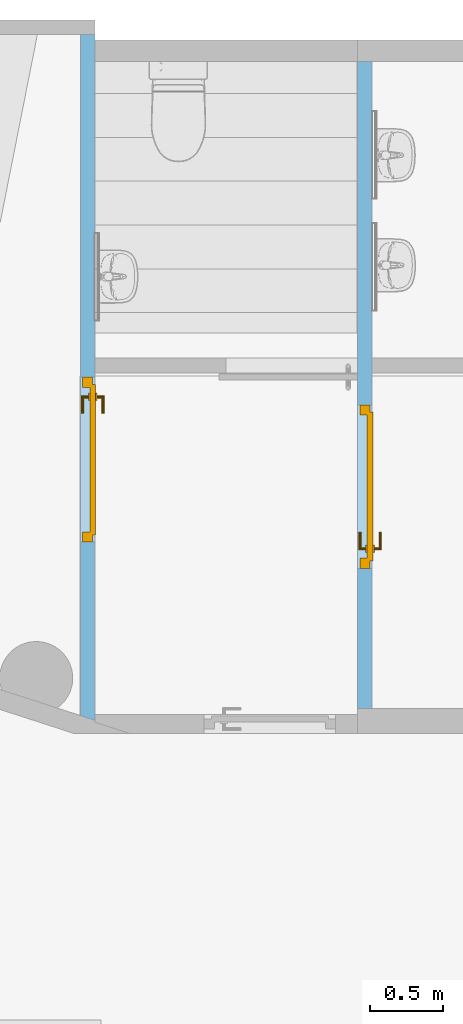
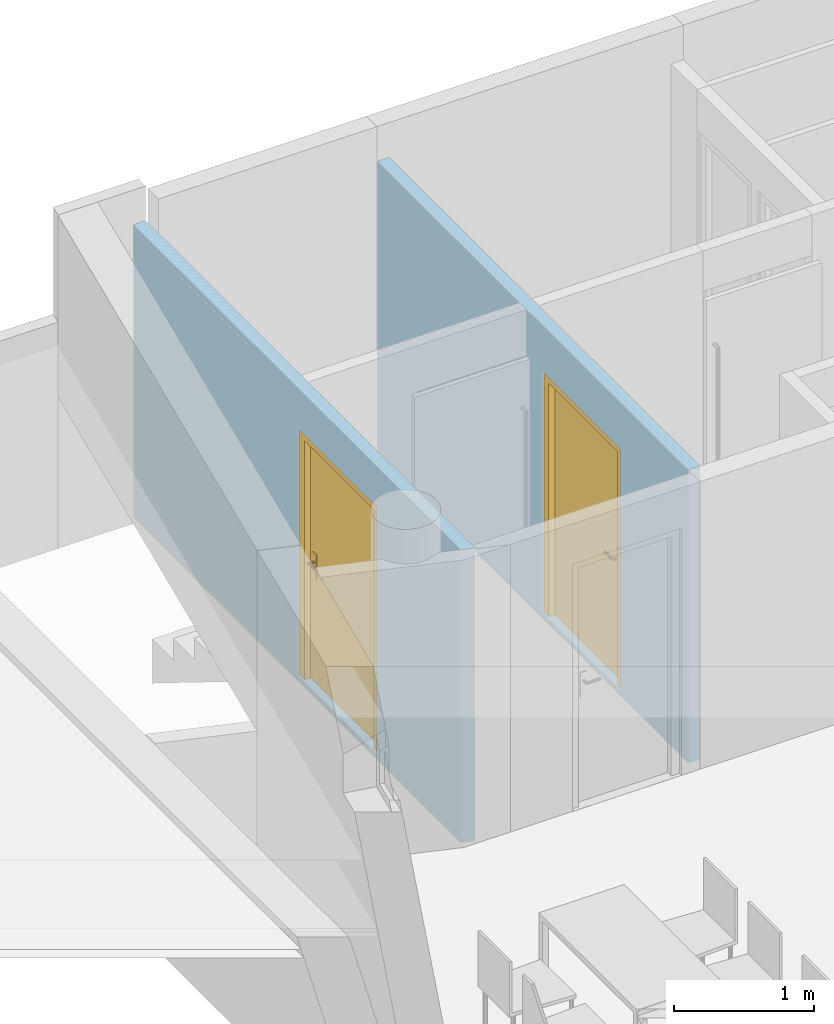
"""IFC4 building model written with IfcOpenShell, lengths in metres."""

from ifc_helpers import new_model, entity, si_unit, converted_unit, derived_unit, frame, frame_2d, origin, origin_with_axes, place, context, subcontext, project, spatial, polyline, rectangle, outline, extrude, faceted_brep, source, transform, mapped, material, layer, layer_set, layer_usage, element, fill, save


model = new_model("IFC4")

# Units and contexts
model_context = context("Model", 3, precision=1e-05, world=origin())
body_context = subcontext(model_context, "Body", "Model", "MODEL_VIEW")
ifc_project = project(units=[si_unit("LENGTHUNIT", "METRE"), si_unit("AREAUNIT", "SQUARE_METRE"), si_unit("VOLUMEUNIT", "CUBIC_METRE"), si_unit("MASSUNIT", "GRAM", prefix="KILO"), converted_unit("PLANEANGLEUNIT", "DEGREE", entity("IfcPlaneAngleMeasure", 0.0174532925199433), si_unit("PLANEANGLEUNIT", "RADIAN"), dimensions=[0, 0, 0, 0, 0, 0, 0]), derived_unit("THERMALTRANSMITTANCEUNIT", [(si_unit("POWERUNIT", "WATT"), 1), (si_unit("THERMODYNAMICTEMPERATUREUNIT", "KELVIN"), -1), (si_unit("LENGTHUNIT", "METRE"), -2)]), derived_unit("VOLUMETRICFLOWRATEUNIT", [(si_unit("LENGTHUNIT", "METRE"), 3), (converted_unit("TIMEUNIT", "hour", entity("IfcTimeMeasure", 3600.0), si_unit("TIMEUNIT", "SECOND"), dimensions=[0, 0, 1, 0, 0, 0, 0]), -1), (si_unit("LENGTHUNIT", "METRE"), -1)])], contexts=[model_context])

# Building, storeys
building_placement = place(None, origin())
building = spatial("IfcBuilding", under=ifc_project, at=building_placement, Name="HABITATGE PLURIFAMILIAR", CompositionType="ELEMENT")
storey_1_placement = place(building_placement, frame((0.0, 0.0, 3.35)))
storey_1 = spatial("IfcBuildingStorey", under=building, at=storey_1_placement, Name="PLANTA  ALTELL", CompositionType="ELEMENT", Elevation=3.35)
storey_2_placement = place(storey_1_placement, origin())
storey_2 = spatial("IfcBuildingStorey", under=storey_1, at=storey_2_placement, Name="NOU", CompositionType="PARTIAL")

# Wall, opening, door
ifc_material_1 = material()
ifc_layer_1 = layer(ifc_material_1, 0.1)
ifc_layer_set_1 = layer_set([ifc_layer_1])
ifc_layer_usage_1 = layer_usage(ifc_layer_set_1, "AXIS2", "POSITIVE", 0.0)
wall_1_placement = place(storey_2_placement, frame((403.357142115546, 23.6495914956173, -0.05), z_axis=(0.0, 0.0, 1.0), x_axis=(0.0, 1.0, 0.0)))
wall_1 = element("IfcWall", 1, at=wall_1_placement, inside=storey_2, material=ifc_layer_usage_1, Name="Evans PA", context=body_context, shape_type="SweptSolid", body=[
    extrude(rectangle(XDim=4.42865640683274, YDim=0.1, at=frame_2d((2.21432820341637, 0.05), x_axis=(1.0, 0.0))), origin_with_axes(), (0.0, 0.0, 1.0), 2.55),
])
opening_1_placement = place(wall_1_placement, frame((2.07999999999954, 0.1, 0.05), z_axis=(0.0, -1.0, 0.0), x_axis=(0.0, 0.0, 1.0)))
opening_1 = element("IfcOpeningElement", 2, at=opening_1_placement, cuts=wall_1, Name="Vano de puerta PA", ObjectType="Opening", context=body_context, shape_type="SweptSolid", body=[
    extrude(outline(polyline([(2.1, 1.12), (2.1, 0.0), (0.0, 0.0), (0.0, 1.12), (2.1, 1.12)])), origin_with_axes(), (0.0, 0.0, 1.0), 0.1),
])
shared_shape_1 = source(origin_with_axes(), body_context, "Body", "Brep", [
    faceted_brep([(1.12000000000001, 0.0699999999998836, 2.1), (1.05000000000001, 0.0699999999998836, 2.1), (1.05000000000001, 0.0699999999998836, 0.0), (1.12000000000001, 0.0699999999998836, 0.0), (1.12000000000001, 0.0, 0.0), (1.05000000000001, 0.0, 0.0), (1.05000000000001, 0.0, 2.1), (1.12000000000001, 0.0, 2.1)], [[[0, 1, 2, 3]], [[4, 5, 6, 7]], [[3, 4, 7, 0]], [[2, 5, 4, 3]], [[1, 6, 5, 2]], [[0, 7, 6, 1]]], orient=[[False], [False], [False], [False], [False], [False]]),
    faceted_brep([(0.0700000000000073, 0.0699999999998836, 2.1), (0.0, 0.0699999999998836, 2.1), (0.0, 0.0699999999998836, 0.0), (0.0700000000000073, 0.0699999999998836, 0.0), (0.0700000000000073, 0.0, 0.0), (0.0, 0.0, 0.0), (0.0, 0.0, 2.1), (0.0700000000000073, 0.0, 2.1)], [[[0, 1, 2, 3]], [[4, 5, 6, 7]], [[3, 4, 7, 0]], [[2, 5, 4, 3]], [[1, 6, 5, 2]], [[0, 7, 6, 1]]], orient=[[False], [False], [False], [False], [False], [False]]),
    faceted_brep([(1.05000000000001, 0.0699999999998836, 2.1), (0.0700000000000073, 0.0699999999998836, 2.1), (0.0700000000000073, 0.0699999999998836, 2.03), (1.05000000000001, 0.0699999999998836, 2.03), (1.05000000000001, 0.0, 2.03), (0.0700000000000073, 0.0, 2.03), (0.0700000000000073, 0.0, 2.1), (1.05000000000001, 0.0, 2.1)], [[[0, 1, 2, 3]], [[4, 5, 6, 7]], [[3, 4, 7, 0]], [[2, 5, 4, 3]], [[1, 6, 5, 2]], [[0, 7, 6, 1]]], orient=[[False], [False], [False], [False], [False], [False]]),
    faceted_brep([(1.07000000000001, 0.0899999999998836, 2.05), (0.0500000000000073, 0.0899999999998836, 2.05), (0.0500000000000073, 0.0899999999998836, 0.0), (1.07000000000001, 0.0899999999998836, 0.0), (1.07000000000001, 0.0499999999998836, 0.0), (0.0500000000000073, 0.0499999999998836, 0.0), (0.0500000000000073, 0.0499999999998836, 2.05), (1.07000000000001, 0.0499999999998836, 2.05)], [[[0, 1, 2, 3]], [[4, 5, 6, 7]], [[3, 4, 7, 0]], [[2, 5, 4, 3]], [[1, 6, 5, 2]], [[0, 7, 6, 1]]], orient=[[False], [False], [False], [False], [False], [False]]),
    faceted_brep([(1.01000000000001, 0.0499999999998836, 1.125), (0.960000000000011, 0.0499999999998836, 1.125), (0.960000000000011, 0.0499999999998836, 0.91), (1.01000000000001, 0.0499999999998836, 0.91), (1.01000000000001, 0.0399999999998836, 0.91), (0.960000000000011, 0.0399999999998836, 0.91), (0.960000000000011, 0.0399999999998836, 1.125), (1.01000000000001, 0.0399999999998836, 1.125)], [[[0, 1, 2, 3]], [[4, 5, 6, 7]], [[3, 4, 7, 0]], [[2, 5, 4, 3]], [[1, 6, 5, 2]], [[0, 7, 6, 1]]], orient=[[False], [False], [False], [False], [False], [False]]),
    faceted_brep([(0.985000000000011, 0.0399999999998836, 1.06), (0.980000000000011, 0.0399999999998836, 1.05866025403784), (0.976339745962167, 0.0399999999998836, 1.055), (0.975000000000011, 0.0399999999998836, 1.05), (0.976339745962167, 0.0399999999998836, 1.045), (0.980000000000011, 0.0399999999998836, 1.04133974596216), (0.985000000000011, 0.0399999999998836, 1.04), (0.990000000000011, 0.0399999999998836, 1.04133974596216), (0.993660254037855, 0.0399999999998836, 1.045), (0.995000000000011, 0.0399999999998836, 1.05), (0.993660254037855, 0.0399999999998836, 1.055), (0.990000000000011, 0.0399999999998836, 1.05866025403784), (0.990000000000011, -0.00500000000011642, 1.05866025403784), (0.985000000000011, 0.0, 1.06), (0.993660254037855, -0.00866025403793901, 1.055), (0.995000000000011, -0.0100000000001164, 1.05), (0.993660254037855, -0.00866025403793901, 1.045), (0.990000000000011, -0.00500000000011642, 1.04133974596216), (0.985000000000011, 0.0, 1.04), (0.980000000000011, 0.00499999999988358, 1.04133974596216), (0.976339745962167, 0.00866025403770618, 1.045), (0.975000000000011, 0.00999999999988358, 1.05), (0.976339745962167, 0.00866025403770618, 1.055), (0.980000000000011, 0.00499999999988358, 1.05866025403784), (0.870000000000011, 0.0, 1.06), (0.870000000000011, -0.00500000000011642, 1.05866025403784), (0.870000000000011, -0.00866025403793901, 1.055), (0.870000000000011, -0.0100000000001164, 1.05), (0.870000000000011, -0.00866025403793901, 1.045), (0.870000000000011, -0.00500000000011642, 1.04133974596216), (0.870000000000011, 0.0, 1.04), (0.870000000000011, 0.00499999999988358, 1.04133974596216), (0.870000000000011, 0.00866025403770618, 1.045), (0.870000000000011, 0.00999999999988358, 1.05), (0.870000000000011, 0.00866025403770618, 1.055), (0.870000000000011, 0.00499999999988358, 1.05866025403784)], [[[0, 1, 2, 3, 4, 5, 6, 7, 8, 9, 10, 11]], [[0, 11, 12, 13]], [[11, 10, 14, 12]], [[10, 9, 15, 14]], [[9, 8, 16, 15]], [[8, 7, 17, 16]], [[7, 6, 18, 17]], [[6, 5, 19, 18]], [[5, 4, 20, 19]], [[4, 3, 21, 20]], [[3, 2, 22, 21]], [[2, 1, 23, 22]], [[1, 0, 13, 23]], [[24, 25, 26, 27, 28, 29, 30, 31, 32, 33, 34, 35]], [[13, 12, 25, 24]], [[12, 14, 26, 25]], [[14, 15, 27, 26]], [[15, 16, 28, 27]], [[16, 17, 29, 28]], [[17, 18, 30, 29]], [[18, 19, 31, 30]], [[19, 20, 32, 31]], [[20, 21, 33, 32]], [[21, 22, 34, 33]], [[22, 23, 35, 34]], [[23, 13, 24, 35]]], orient=[[False], [False], [False], [False], [False], [False], [False], [False], [False], [False], [False], [False], [False], [False], [False], [False], [False], [False], [False], [False], [False], [False], [False], [False], [False], [False]]),
    faceted_brep([(1.01000000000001, 0.0899999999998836, 1.125), (1.01000000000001, 0.0899999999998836, 0.91), (0.960000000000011, 0.0899999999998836, 0.91), (0.960000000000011, 0.0899999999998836, 1.125), (1.01000000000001, 0.0999999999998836, 0.91), (1.01000000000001, 0.0999999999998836, 1.125), (0.960000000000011, 0.0999999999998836, 1.125), (0.960000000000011, 0.0999999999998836, 0.91)], [[[0, 1, 2, 3]], [[4, 5, 6, 7]], [[1, 0, 5, 4]], [[2, 1, 4, 7]], [[3, 2, 7, 6]], [[0, 3, 6, 5]]], orient=[[False], [False], [False], [False], [False], [False]]),
    faceted_brep([(0.985000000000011, 0.0999999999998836, 1.06), (0.990000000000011, 0.0999999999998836, 1.05866025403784), (0.993660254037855, 0.0999999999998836, 1.055), (0.995000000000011, 0.0999999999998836, 1.05), (0.993660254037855, 0.0999999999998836, 1.045), (0.990000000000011, 0.0999999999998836, 1.04133974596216), (0.985000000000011, 0.0999999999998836, 1.04), (0.980000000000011, 0.0999999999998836, 1.04133974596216), (0.976339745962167, 0.0999999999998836, 1.045), (0.975000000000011, 0.0999999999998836, 1.05), (0.976339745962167, 0.0999999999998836, 1.055), (0.980000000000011, 0.0999999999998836, 1.05866025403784), (0.985000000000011, 0.139999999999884, 1.06), (0.990000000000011, 0.144999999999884, 1.05866025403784), (0.993660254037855, 0.148660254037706, 1.055), (0.995000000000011, 0.149999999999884, 1.05), (0.993660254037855, 0.148660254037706, 1.045), (0.990000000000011, 0.144999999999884, 1.04133974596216), (0.985000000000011, 0.139999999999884, 1.04), (0.980000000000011, 0.134999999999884, 1.04133974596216), (0.976339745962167, 0.131339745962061, 1.045), (0.975000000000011, 0.129999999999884, 1.05), (0.976339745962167, 0.131339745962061, 1.055), (0.980000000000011, 0.134999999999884, 1.05866025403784), (0.870000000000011, 0.139999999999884, 1.06), (0.870000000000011, 0.134999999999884, 1.05866025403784), (0.870000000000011, 0.131339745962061, 1.055), (0.870000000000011, 0.129999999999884, 1.05), (0.870000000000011, 0.131339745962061, 1.045), (0.870000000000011, 0.134999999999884, 1.04133974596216), (0.870000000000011, 0.139999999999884, 1.04), (0.870000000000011, 0.144999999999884, 1.04133974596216), (0.870000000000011, 0.148660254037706, 1.045), (0.870000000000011, 0.149999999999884, 1.05), (0.870000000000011, 0.148660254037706, 1.055), (0.870000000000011, 0.144999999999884, 1.05866025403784)], [[[0, 1, 2, 3, 4, 5, 6, 7, 8, 9, 10, 11]], [[0, 12, 13, 1]], [[1, 13, 14, 2]], [[2, 14, 15, 3]], [[3, 15, 16, 4]], [[4, 16, 17, 5]], [[5, 17, 18, 6]], [[6, 18, 19, 7]], [[7, 19, 20, 8]], [[8, 20, 21, 9]], [[9, 21, 22, 10]], [[10, 22, 23, 11]], [[11, 23, 12, 0]], [[24, 25, 26, 27, 28, 29, 30, 31, 32, 33, 34, 35]], [[12, 24, 35, 13]], [[13, 35, 34, 14]], [[14, 34, 33, 15]], [[15, 33, 32, 16]], [[16, 32, 31, 17]], [[17, 31, 30, 18]], [[18, 30, 29, 19]], [[19, 29, 28, 20]], [[20, 28, 27, 21]], [[21, 27, 26, 22]], [[22, 26, 25, 23]], [[23, 25, 24, 12]]], orient=[[False], [False], [False], [False], [False], [False], [False], [False], [False], [False], [False], [False], [False], [False], [False], [False], [False], [False], [False], [False], [False], [False], [False], [False], [False], [False]]),
])
door_1_placement = place(opening_1_placement, frame((0.0, 0.0, 0.015), z_axis=(1.0, 0.0, 0.0), x_axis=(0.0, 1.0, 0.0)))
door_1 = element("IfcDoor", 3, at=door_1_placement, inside=storey_2, Name="Porta PA", OperationType="USERDEFINED", OverallHeight=2.1, OverallWidth=1.12, PredefinedType="DOOR", context=body_context, shape_type="MappedRepresentation", body=[
    mapped(shared_shape_1, transform((0.0, 0.0, 0.0), x_axis=(1.0, 0.0, 0.0), y_axis=(0.0, 1.0, 0.0), z_axis=(0.0, 0.0, 1.0), scale=1.0)),
])
fill(opening_1, door_1)

ifc_material_2 = material()
ifc_layer_2 = layer(ifc_material_2, 0.1)
ifc_layer_set_2 = layer_set([ifc_layer_2])
ifc_layer_usage_2 = layer_usage(ifc_layer_set_2, "AXIS2", "POSITIVE", 0.0)
wall_2_placement = place(storey_2_placement, frame((401.458743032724, 23.5701517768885, -0.05), z_axis=(0.0, 0.0, 1.0), x_axis=(0.0, 1.0, 0.0)))
wall_2 = element("IfcWall", 4, at=wall_2_placement, inside=storey_2, material=ifc_layer_usage_2, Name="Evans PA", context=body_context, shape_type="SweptSolid", body=[
    extrude(outline(polyline([(0.0, -0.1), (4.69370477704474, -0.1), (4.69370477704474, 0.0), (0.0325220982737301, 0.0), (0.0, -0.1)])), frame((0.0, 0.1, 0.0), z_axis=(0.0, 0.0, 1.0), x_axis=(1.0, 0.0, 0.0)), (0.0, 0.0, 1.0), 2.55),
])
opening_2_placement = place(wall_2_placement, frame((2.34930937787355, 0.1, 0.05), z_axis=(0.0, -1.0, 0.0), x_axis=(0.0, 0.0, 1.0)))
opening_2 = element("IfcOpeningElement", 5, at=opening_2_placement, cuts=wall_2, Name="Vano de puerta PA", ObjectType="Opening", context=body_context, shape_type="SweptSolid", body=[
    extrude(outline(polyline([(2.15, 1.12998869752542), (2.15, 0.0), (0.0, 0.0), (0.0, 1.12998869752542), (2.15, 1.12998869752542)])), origin_with_axes(), (0.0, 0.0, 1.0), 0.1),
])
shared_shape_2 = source(origin_with_axes(), body_context, "Body", "Brep", [
    faceted_brep([(0.0, 0.0699999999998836, 2.15), (0.0, 0.0699999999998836, 0.0), (0.0700000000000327, 0.0699999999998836, 0.0), (0.0700000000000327, 0.0699999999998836, 2.15), (0.0, 0.0, 0.0), (0.0, 0.0, 2.15), (0.0700000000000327, 0.0, 2.15), (0.0700000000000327, 0.0, 0.0)], [[[0, 1, 2, 3]], [[4, 5, 6, 7]], [[1, 0, 5, 4]], [[2, 1, 4, 7]], [[3, 2, 7, 6]], [[0, 3, 6, 5]]], orient=[[False], [False], [False], [False], [False], [False]]),
    faceted_brep([(1.0599886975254, 0.0699999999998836, 2.15), (1.0599886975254, 0.0699999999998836, 0.0), (1.12998869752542, 0.0699999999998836, 0.0), (1.12998869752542, 0.0699999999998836, 2.15), (1.0599886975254, 0.0, 0.0), (1.0599886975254, 0.0, 2.15), (1.12998869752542, 0.0, 2.15), (1.12998869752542, 0.0, 0.0)], [[[0, 1, 2, 3]], [[4, 5, 6, 7]], [[1, 0, 5, 4]], [[2, 1, 4, 7]], [[3, 2, 7, 6]], [[0, 3, 6, 5]]], orient=[[False], [False], [False], [False], [False], [False]]),
    faceted_brep([(0.0700000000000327, 0.0699999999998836, 2.15), (0.0700000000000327, 0.0699999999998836, 2.08), (1.0599886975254, 0.0699999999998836, 2.08), (1.0599886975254, 0.0699999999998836, 2.15), (0.0700000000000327, 0.0, 2.08), (0.0700000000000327, 0.0, 2.15), (1.0599886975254, 0.0, 2.15), (1.0599886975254, 0.0, 2.08)], [[[0, 1, 2, 3]], [[4, 5, 6, 7]], [[1, 0, 5, 4]], [[2, 1, 4, 7]], [[3, 2, 7, 6]], [[0, 3, 6, 5]]], orient=[[False], [False], [False], [False], [False], [False]]),
    faceted_brep([(0.0500000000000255, 0.0899999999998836, 2.1), (0.0500000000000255, 0.0899999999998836, 0.0), (1.0799886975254, 0.0899999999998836, 0.0), (1.0799886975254, 0.0899999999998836, 2.1), (0.0500000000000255, 0.0499999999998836, 0.0), (0.0500000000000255, 0.0499999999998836, 2.1), (1.0799886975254, 0.0499999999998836, 2.1), (1.0799886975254, 0.0499999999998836, 0.0)], [[[0, 1, 2, 3]], [[4, 5, 6, 7]], [[1, 0, 5, 4]], [[2, 1, 4, 7]], [[3, 2, 7, 6]], [[0, 3, 6, 5]]], orient=[[False], [False], [False], [False], [False], [False]]),
    faceted_brep([(0.110000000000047, 0.0499999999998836, 1.125), (0.110000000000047, 0.0499999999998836, 0.91), (0.160000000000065, 0.0499999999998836, 0.91), (0.160000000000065, 0.0499999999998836, 1.125), (0.110000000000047, 0.0399999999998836, 0.91), (0.110000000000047, 0.0399999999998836, 1.125), (0.160000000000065, 0.0399999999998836, 1.125), (0.160000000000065, 0.0399999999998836, 0.91)], [[[0, 1, 2, 3]], [[4, 5, 6, 7]], [[1, 0, 5, 4]], [[2, 1, 4, 7]], [[3, 2, 7, 6]], [[0, 3, 6, 5]]], orient=[[False], [False], [False], [False], [False], [False]]),
    faceted_brep([(0.135000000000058, 0.0399999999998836, 1.06), (0.130000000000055, 0.0399999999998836, 1.05866025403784), (0.12633974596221, 0.0399999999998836, 1.055), (0.125000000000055, 0.0399999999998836, 1.05), (0.12633974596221, 0.0399999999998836, 1.045), (0.130000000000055, 0.0399999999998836, 1.04133974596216), (0.135000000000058, 0.0399999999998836, 1.04), (0.140000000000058, 0.0399999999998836, 1.04133974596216), (0.143660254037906, 0.0399999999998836, 1.045), (0.145000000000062, 0.0399999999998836, 1.05), (0.143660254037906, 0.0399999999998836, 1.055), (0.140000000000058, 0.0399999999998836, 1.05866025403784), (0.135000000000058, 0.0, 1.06), (0.130000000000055, -0.00500000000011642, 1.05866025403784), (0.12633974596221, -0.00866025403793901, 1.055), (0.125000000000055, -0.0100000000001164, 1.05), (0.12633974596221, -0.00866025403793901, 1.045), (0.130000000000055, -0.00500000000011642, 1.04133974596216), (0.135000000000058, 0.0, 1.04), (0.140000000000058, 0.00499999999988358, 1.04133974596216), (0.143660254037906, 0.00866025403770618, 1.045), (0.145000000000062, 0.00999999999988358, 1.05), (0.143660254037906, 0.00866025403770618, 1.055), (0.140000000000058, 0.00499999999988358, 1.05866025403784), (0.250000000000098, 0.0, 1.06), (0.250000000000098, 0.00499999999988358, 1.05866025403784), (0.250000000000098, 0.00866025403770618, 1.055), (0.250000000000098, 0.00999999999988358, 1.05), (0.250000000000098, 0.00866025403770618, 1.045), (0.250000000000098, 0.00499999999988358, 1.04133974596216), (0.250000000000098, 0.0, 1.04), (0.250000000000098, -0.00500000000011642, 1.04133974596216), (0.250000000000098, -0.00866025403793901, 1.045), (0.250000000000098, -0.0100000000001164, 1.05), (0.250000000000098, -0.00866025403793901, 1.055), (0.250000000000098, -0.00500000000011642, 1.05866025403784)], [[[0, 1, 2, 3, 4, 5, 6, 7, 8, 9, 10, 11]], [[0, 12, 13, 1]], [[1, 13, 14, 2]], [[2, 14, 15, 3]], [[3, 15, 16, 4]], [[4, 16, 17, 5]], [[5, 17, 18, 6]], [[6, 18, 19, 7]], [[7, 19, 20, 8]], [[8, 20, 21, 9]], [[9, 21, 22, 10]], [[10, 22, 23, 11]], [[11, 23, 12, 0]], [[24, 25, 26, 27, 28, 29, 30, 31, 32, 33, 34, 35]], [[12, 24, 35, 13]], [[13, 35, 34, 14]], [[14, 34, 33, 15]], [[15, 33, 32, 16]], [[16, 32, 31, 17]], [[17, 31, 30, 18]], [[18, 30, 29, 19]], [[19, 29, 28, 20]], [[20, 28, 27, 21]], [[21, 27, 26, 22]], [[22, 26, 25, 23]], [[23, 25, 24, 12]]], orient=[[False], [False], [False], [False], [False], [False], [False], [False], [False], [False], [False], [False], [False], [False], [False], [False], [False], [False], [False], [False], [False], [False], [False], [False], [False], [False]]),
    faceted_brep([(0.110000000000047, 0.0899999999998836, 1.125), (0.160000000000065, 0.0899999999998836, 1.125), (0.160000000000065, 0.0899999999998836, 0.91), (0.110000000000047, 0.0899999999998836, 0.91), (0.110000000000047, 0.0999999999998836, 0.91), (0.160000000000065, 0.0999999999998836, 0.91), (0.160000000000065, 0.0999999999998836, 1.125), (0.110000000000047, 0.0999999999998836, 1.125)], [[[0, 1, 2, 3]], [[4, 5, 6, 7]], [[3, 4, 7, 0]], [[2, 5, 4, 3]], [[1, 6, 5, 2]], [[0, 7, 6, 1]]], orient=[[False], [False], [False], [False], [False], [False]]),
    faceted_brep([(0.135000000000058, 0.0999999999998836, 1.06), (0.140000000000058, 0.0999999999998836, 1.05866025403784), (0.143660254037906, 0.0999999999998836, 1.055), (0.145000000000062, 0.0999999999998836, 1.05), (0.143660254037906, 0.0999999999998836, 1.045), (0.140000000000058, 0.0999999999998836, 1.04133974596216), (0.135000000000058, 0.0999999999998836, 1.04), (0.130000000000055, 0.0999999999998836, 1.04133974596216), (0.12633974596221, 0.0999999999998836, 1.045), (0.125000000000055, 0.0999999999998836, 1.05), (0.12633974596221, 0.0999999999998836, 1.055), (0.130000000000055, 0.0999999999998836, 1.05866025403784), (0.130000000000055, 0.144999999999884, 1.05866025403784), (0.135000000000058, 0.139999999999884, 1.06), (0.12633974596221, 0.148660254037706, 1.055), (0.125000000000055, 0.149999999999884, 1.05), (0.12633974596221, 0.148660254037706, 1.045), (0.130000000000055, 0.144999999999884, 1.04133974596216), (0.135000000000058, 0.139999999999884, 1.04), (0.140000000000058, 0.134999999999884, 1.04133974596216), (0.143660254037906, 0.131339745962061, 1.045), (0.145000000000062, 0.129999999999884, 1.05), (0.143660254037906, 0.131339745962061, 1.055), (0.140000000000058, 0.134999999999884, 1.05866025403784), (0.250000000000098, 0.139999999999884, 1.06), (0.250000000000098, 0.144999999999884, 1.05866025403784), (0.250000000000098, 0.148660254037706, 1.055), (0.250000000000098, 0.149999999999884, 1.05), (0.250000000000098, 0.148660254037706, 1.045), (0.250000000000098, 0.144999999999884, 1.04133974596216), (0.250000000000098, 0.139999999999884, 1.04), (0.250000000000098, 0.134999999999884, 1.04133974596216), (0.250000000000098, 0.131339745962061, 1.045), (0.250000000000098, 0.129999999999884, 1.05), (0.250000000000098, 0.131339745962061, 1.055), (0.250000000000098, 0.134999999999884, 1.05866025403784)], [[[0, 1, 2, 3, 4, 5, 6, 7, 8, 9, 10, 11]], [[0, 11, 12, 13]], [[11, 10, 14, 12]], [[10, 9, 15, 14]], [[9, 8, 16, 15]], [[8, 7, 17, 16]], [[7, 6, 18, 17]], [[6, 5, 19, 18]], [[5, 4, 20, 19]], [[4, 3, 21, 20]], [[3, 2, 22, 21]], [[2, 1, 23, 22]], [[1, 0, 13, 23]], [[24, 25, 26, 27, 28, 29, 30, 31, 32, 33, 34, 35]], [[13, 12, 25, 24]], [[12, 14, 26, 25]], [[14, 15, 27, 26]], [[15, 16, 28, 27]], [[16, 17, 29, 28]], [[17, 18, 30, 29]], [[18, 19, 31, 30]], [[19, 20, 32, 31]], [[20, 21, 33, 32]], [[21, 22, 34, 33]], [[22, 23, 35, 34]], [[23, 13, 24, 35]]], orient=[[False], [False], [False], [False], [False], [False], [False], [False], [False], [False], [False], [False], [False], [False], [False], [False], [False], [False], [False], [False], [False], [False], [False], [False], [False], [False]]),
])
door_2_placement = place(opening_2_placement, frame((0.0, 0.0, 0.015), z_axis=(1.0, 0.0, 0.0), x_axis=(0.0, 1.0, 0.0)))
door_2 = element("IfcDoor", 6, at=door_2_placement, inside=storey_2, Name="Porta PA", OperationType="USERDEFINED", OverallHeight=2.15, OverallWidth=1.12999, PredefinedType="DOOR", context=body_context, shape_type="MappedRepresentation", body=[
    mapped(shared_shape_2, transform((0.0, 0.0, 0.0), x_axis=(1.0, 0.0, 0.0), y_axis=(0.0, 1.0, 0.0), z_axis=(0.0, 0.0, 1.0), scale=1.0)),
])
fill(opening_2, door_2)

save(model, "model.ifc")
